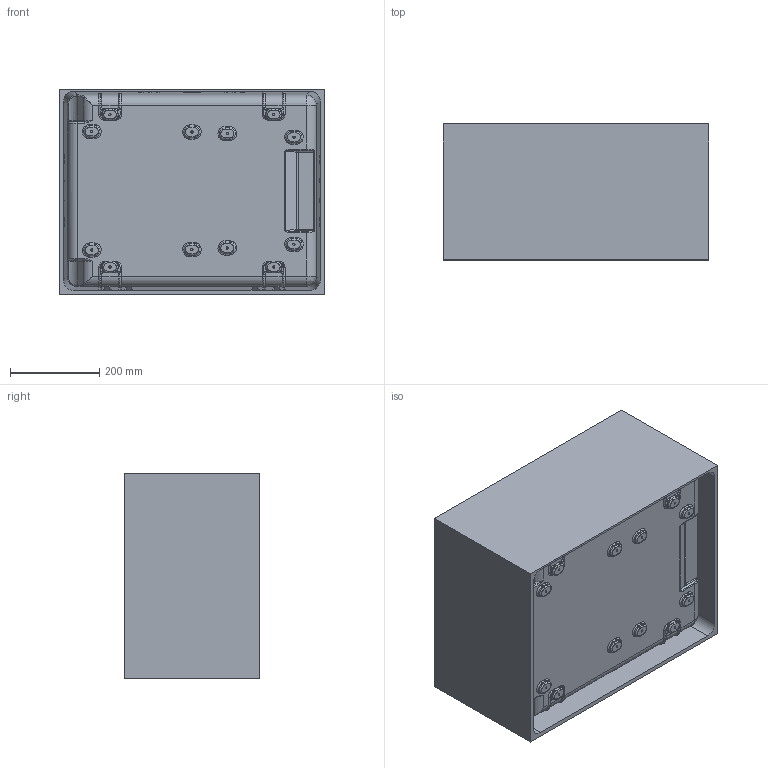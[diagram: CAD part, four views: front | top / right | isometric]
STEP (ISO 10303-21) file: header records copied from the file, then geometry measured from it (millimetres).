
FILE_DESCRIPTION (( 'STEP AP214' ), '1' );
FILE_NAME ('1621-931B-CLR.STEP', '2016-02-29T04:40:01', ( '' ), ( '' ), 'SwSTEP 2.0', 'SolidWorks 2016', '' );
FILE_SCHEMA (( 'AUTOMOTIVE_DESIGN' ));
Products named in the file (1): 1621-931B-CLR
Bounding box: 595.77 x 304.8 x 461.94 mm (x, y, z)
Volume: 9831490.6 mm3; surface area: 2741725.9 mm2
Topology: 2 solids, 2 shells, 1502 faces, 3822 edges, 2374 vertices
Faces by surface type: bspline 601, cylinder 531, plane 356, cone 14
Entity records: 121365 total; most frequent: CARTESIAN_POINT 91214, ORIENTED_EDGE 7624, DIRECTION 4418, EDGE_CURVE 3812, VERTEX_POINT 2370, B_SPLINE_CURVE_WITH_KNOTS 1583, AXIS2_PLACEMENT_3D 1577, EDGE_LOOP 1556
